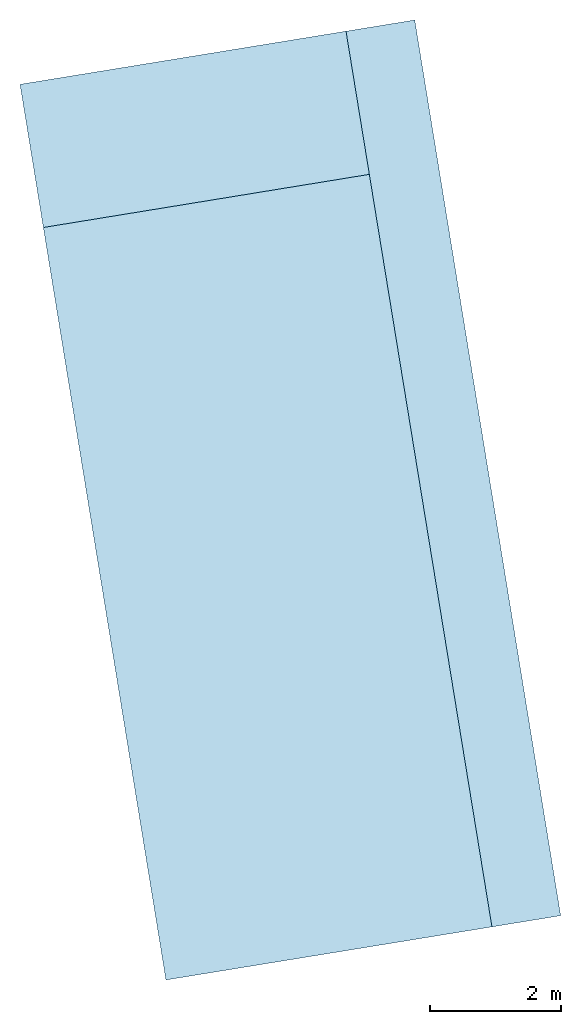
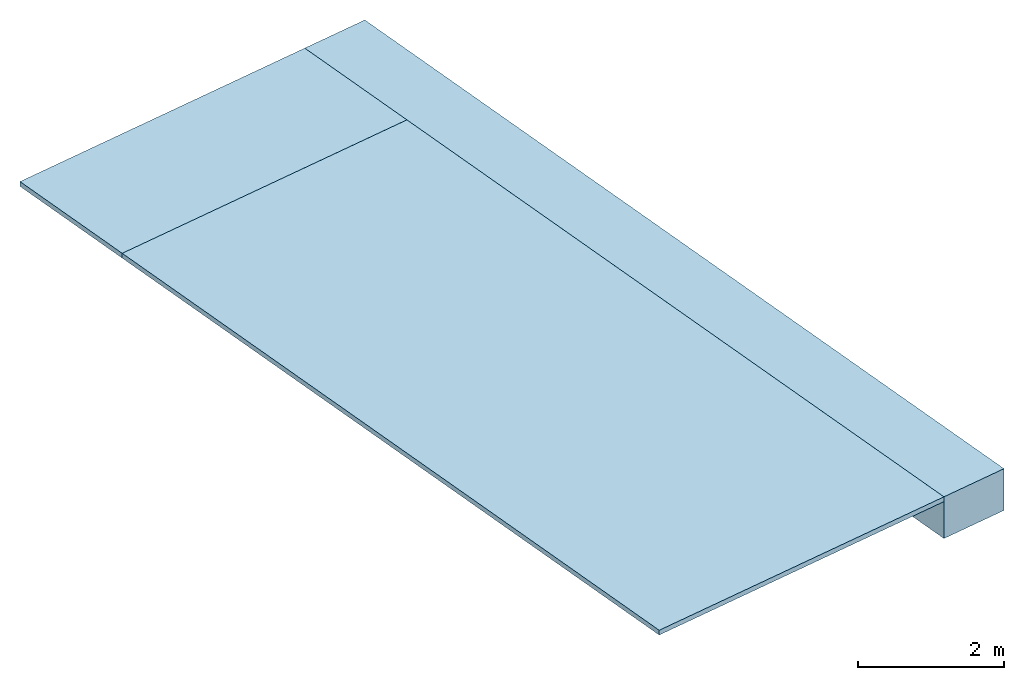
# One storey: 3 slabs.
"""IFC2X3 building model written with IfcOpenShell, lengths in millimetres."""

from ifc_helpers import new_model, entity, si_unit, converted_unit, derived_unit, direction, frame, origin, origin_with_axes, place, context, subcontext, project, spatial, faceted_brep, type_object, element, save


model = new_model("IFC2X3")

# Units and contexts
model_context = context("Model", 3, precision=0.01, world=origin(), true_north=direction((6.12323399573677e-17, 1.0)))
plan_context = context("Plan", 3, precision=1e-05, world=origin_with_axes())
body_context = subcontext(model_context, "Body", "Model", "MODEL_VIEW")
ifc_project = project(units=[converted_unit("PLANEANGLEUNIT", "DEGREE", entity("IfcPositiveLengthMeasure", 0.0174532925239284), si_unit("PLANEANGLEUNIT", "RADIAN"), dimensions=[0, 0, 0, 0, 0, 0, 0]), si_unit("AREAUNIT", "SQUARE_METRE"), si_unit("LENGTHUNIT", "METRE", prefix="MILLI"), si_unit("MASSUNIT", "GRAM", prefix="KILO"), si_unit("POWERUNIT", "WATT"), si_unit("PRESSUREUNIT", "PASCAL", prefix="KILO"), si_unit("FORCEUNIT", "NEWTON", prefix="KILO"), si_unit("ELECTRICVOLTAGEUNIT", "VOLT"), si_unit("ELECTRICCURRENTUNIT", "AMPERE"), si_unit("THERMODYNAMICTEMPERATUREUNIT", "DEGREE_CELSIUS"), si_unit("TIMEUNIT", "SECOND"), si_unit("VOLUMEUNIT", "CUBIC_METRE"), derived_unit("LINEARVELOCITYUNIT", [(si_unit("LENGTHUNIT", "METRE"), 1), (si_unit("TIMEUNIT", "SECOND"), -1)]), derived_unit("VOLUMETRICFLOWRATEUNIT", [(si_unit("VOLUMEUNIT", "CUBIC_METRE"), 1), (si_unit("TIMEUNIT", "SECOND"), -1)]), derived_unit("THERMALTRANSMITTANCEUNIT", [(si_unit("POWERUNIT", "WATT"), 1), (si_unit("THERMODYNAMICTEMPERATUREUNIT", "KELVIN"), -1), (si_unit("AREAUNIT", "SQUARE_METRE"), -1)]), derived_unit("SOUNDPRESSUREUNIT", [(si_unit("PRESSUREUNIT", "PASCAL"), 1)])], contexts=[model_context, plan_context])

# Site, building, storey
site_placement = place(None, frame((5.09380697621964e-08, 5.80416781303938e-08, 0.0), z_axis=(0.0, 0.0, 1.0), x_axis=(-0.160806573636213, 0.986985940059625, 0.0)))
site = spatial("IfcSite", under=ifc_project, at=site_placement, Name="Default", CompositionType="ELEMENT")
building_placement = place(site_placement, frame((0.0, 0.0, 0.0), z_axis=(0.0, 0.0, 1.0), x_axis=(1.0, -2.77555756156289e-17, 0.0)))
building = spatial("IfcBuilding", under=site, at=building_placement, CompositionType="ELEMENT")
storey_placement = place(building_placement, frame((0.0, 0.0, 47800.0), z_axis=(0.0, 0.0, 1.0), x_axis=(1.0, -2.77555756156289e-17, 0.0)))
storey = spatial("IfcBuildingStorey", under=building, at=storey_placement, Name="U01-Nivå B+3,1m", CompositionType="ELEMENT", Elevation=47800.0)

# Slabs
slab_type_1 = type_object("IfcSlabType", Name="700*13800", PredefinedType="FLOOR")
slab_1_placement = place(storey_placement, frame((0.0, 0.0, 0.0), z_axis=(0.0, 0.0, 1.0), x_axis=(1.0, -2.77555756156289e-17, 0.0)))
element("IfcSlab", 1, at=slab_1_placement, inside=storey, type_object=slab_type_1, Name="PLASSTØPTDEKKE", ObjectType="700*13800", PredefinedType="FLOOR", context=body_context, shape_type="Brep", body=[
    faceted_brep([(982857.911168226, -385580.368747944, 2730.00003268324), (982857.911168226, -385580.368531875, 3430.0000326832), (968973.367643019, -385580.427783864, 3430.00005562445), (968973.367643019, -385580.427999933, 2730.00005562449), (968973.367643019, -386646.047771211, 2730.00434589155), (982857.911168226, -386646.047771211, 2730.00434589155), (982857.911168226, -386646.047771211, 3430.00425964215), (968973.367643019, -386646.047771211, 3430.00425964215), (982857.911168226, -386646.047771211, 3430.0000326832), (982857.911168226, -386646.047771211, 2730.00003268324), (968973.367643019, -386646.047771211, 2730.00005562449), (968973.367643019, -386646.047771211, 3430.00005562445)], [[[0, 1, 2, 3]], [[3, 4, 5, 0]], [[1, 6, 7, 2]], [[8, 1, 0, 9]], [[10, 3, 2, 11]], [[11, 8, 9, 10]]], orient=[[False], [False], [False], [False], [False], [False]]),
])
slab_type_2 = type_object("IfcSlabType", Name="80*12000", PredefinedType="FLOOR")
slab_2_placement = place(storey_placement, frame((0.0, 0.0, 0.0), z_axis=(0.0, 0.0, 1.0), x_axis=(1.0, -2.77555756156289e-17, 0.0)))
element("IfcSlab", 2, at=slab_2_placement, inside=storey, type_object=slab_type_2, Name="GULVPÅGRUNN", ObjectType="80*12000", PredefinedType="FLOOR", context=body_context, shape_type="Brep", body=[
    faceted_brep([(980638.509490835, -380526.564561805, 3350.00703162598), (980638.509490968, -380526.564542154, 3430.00703162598), (980638.531058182, -385580.379614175, 3430.00859158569), (980638.53105805, -385580.379638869, 3350.00859158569), (982857.911168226, -385580.370143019, 3430.00858791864), (982857.911168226, -385580.370167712, 3350.00858791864), (982857.911168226, -380526.564561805, 3350.00065512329), (982857.911168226, -380526.564561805, 3430.00065437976), (982857.911168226, -380526.564561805, 3350.00188052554), (982857.911168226, -380526.564561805, 3430.00188052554), (980638.509490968, -380526.564561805, 3430.00703162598)], [[[0, 1, 2, 3]], [[4, 5, 3, 2]], [[5, 6, 0, 3]], [[1, 7, 4, 2]], [[8, 5, 4, 9]], [[9, 10, 0, 8]]], orient=[[False], [False], [False], [False], [False], [False]]),
])
slab_3_placement = place(storey_placement, frame((968638.319247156, -385580.432667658, 3350.0), z_axis=(0.0, 0.0, 1.0), x_axis=(1.0, -2.77555756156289e-17, 0.0)))
element("IfcSlab", 3, at=slab_3_placement, inside=storey, type_object=slab_type_2, Name="GULVPÅGRUNN", ObjectType="80*12000", PredefinedType="FLOOR", context=body_context, shape_type="Brep", body=[
    faceted_brep([(12000.1907012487, 5053.86812550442, 80.0060796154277), (12000.1907011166, 5053.86810585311, 0.00607961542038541), (12000.2122683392, 0.0512097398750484, 0.00763957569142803), (12000.2122684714, 0.0512344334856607, 80.0076395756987), (335.048395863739, 0.00142890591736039, 0.00765884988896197), (335.04839586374, 0.00145359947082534, 80.007658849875), (335.04839586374, 5053.86810585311, 0.0073090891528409), (335.04839586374, 5053.86810585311, 80.0073100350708), (335.04839586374, 5053.86810585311, 0.00607961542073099), (12000.1907012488, 5053.86810585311, 80.0060796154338), (335.048395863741, 5053.86810585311, 80.0060988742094)], [[[0, 1, 2, 3]], [[4, 5, 3, 2]], [[1, 6, 4, 2]], [[5, 7, 0, 3]], [[8, 1, 9, 10]], [[10, 5, 4, 8]]], orient=[[False], [False], [False], [False], [False], [False]]),
])

save(model, "model.ifc")
